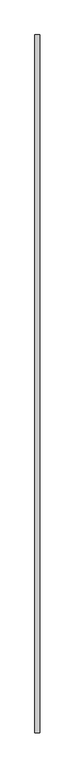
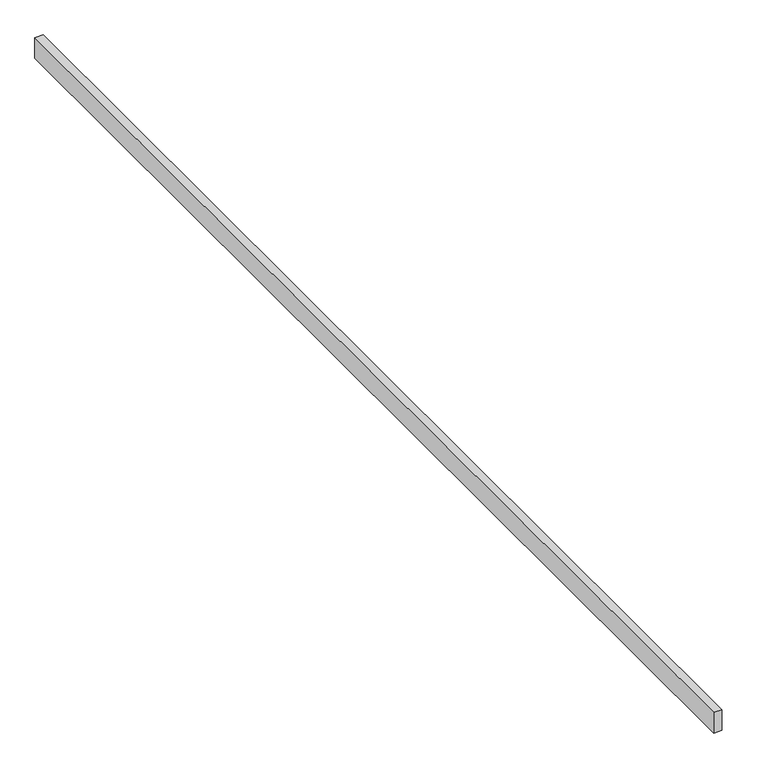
"""IFC4 building model written with IfcOpenShell, lengths in millimetres: proxy geometry, Modelos genéricos 1 : Modelos genéricos 1."""

from ifc_helpers import new_model, si_unit, frame, origin, place, context, project, spatial, polyline, outline, extrude, source, transform, mapped, element, save


def generic_models_1c8a4039(model_context):
    return source(origin(), model_context, "Body", "SweptSolid", [
        extrude(outline(polyline([(-12676.5527533, 6228.6238165), (-12616.5527533, 6228.6238165), (-12616.5527533, -2331.3761835), (-12676.5527533, -2331.3761835), (-12676.5527533, 6228.6238165)])), frame((0.0, 0.0, 3000.0), z_axis=(0.0, 0.0, 1.0), x_axis=(1.0, 0.0, 0.0)), (0.0, 0.0, 1.0), 160.0),
    ])


if __name__ == "__main__":
    model = new_model("IFC4")
    model_context = context("Model", 3, world=origin())
    ifc_project = project(units=[si_unit("LENGTHUNIT", "METRE", prefix="MILLI")], contexts=[model_context])
    site = spatial("IfcSite", under=ifc_project)
    building = spatial("IfcBuilding", under=site)
    placement = place(None, origin())
    generic_models_shape = generic_models_1c8a4039(model_context)
    element("IfcBuildingElementProxy", 1, Name="Modelos genéricos 1 : Modelos genéricos 1", ObjectType="Modelos genéricos 1 : Modelos genéricos 1", at=placement, inside=building, context=model_context, shape_type="MappedRepresentation", body=[
        mapped(generic_models_shape, transform((0.0, 0.0, 0.0), x_axis=(1.0, 0.0, 0.0), y_axis=(0.0, 1.0, 0.0), z_axis=(0.0, 0.0, 1.0))),
    ])
    save(model, "model.ifc")
